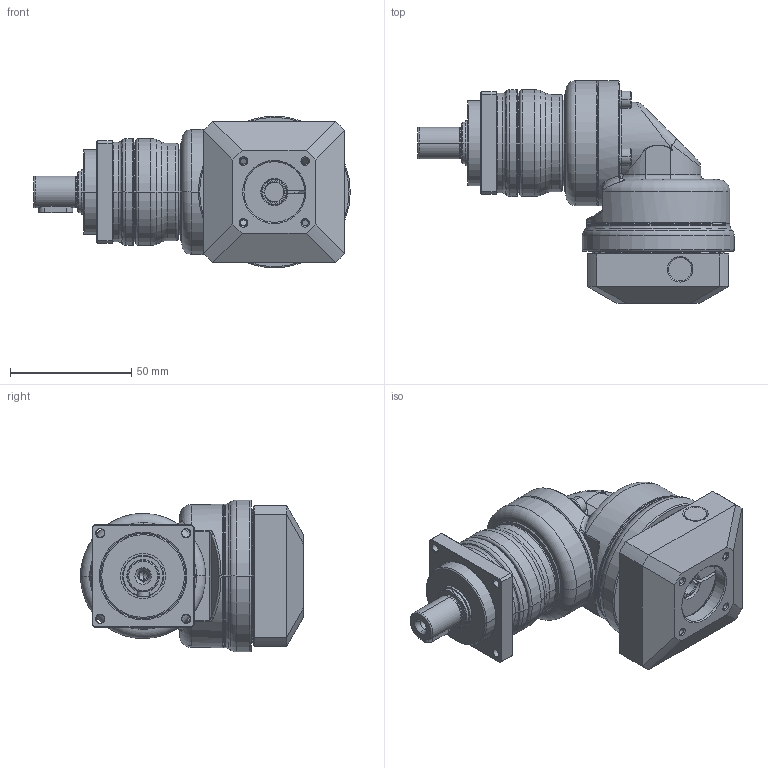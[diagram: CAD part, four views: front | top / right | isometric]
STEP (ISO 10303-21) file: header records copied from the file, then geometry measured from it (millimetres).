
FILE_DESCRIPTION((''),'2;1');
FILE_NAME('PA2R-042_1ST_8-P0411100101_ASM','2016-05-13T',('d01943'),(''),'PRO/ENGINEER BY PARAMETRIC TECHNOLOGY CORPORATION, 2008410','PRO/ENGINEER BY PARAMETRIC TECHNOLOGY CORPORATION, 2008410','');
FILE_SCHEMA(('CONFIG_CONTROL_DESIGN'));
Length unit declared in the file: millimetre
Products named in the file (12): P1327100001; P0250100001; P0350100601; P1349100001; P1017100001; P0713100001; P0503100005; P1350100001; P0411100101; P1702300001; 2111B104015; PA2R-042_1ST_8-P0411100101_ASM
Assembly tree (14 placements, depth 2):
  PA2R-042_1ST_8-P0411100101_ASM
    P1327100001
    P0250100001
    P0350100601
    P1349100001
    P1017100001
    P0713100001
    P0503100005
    P1350100001
    P0411100101
    P1702300001
    2111B104015  x4
Bounding box: 130.25 x 91.75 x 62.5 mm (x, y, z)
Volume: 188567.7 mm3; surface area: 72463 mm2
Topology: 14 solids, 14 shells, 735 faces, 1628 edges, 947 vertices
Faces by surface type: cylinder 218, cone 208, plane 170, torus 104, bspline 35
Entity records: 23763 total; most frequent: CARTESIAN_POINT 9416, DIRECTION 3163, ORIENTED_EDGE 2800, EDGE_CURVE 1400, AXIS2_PLACEMENT_3D 1337, VERTEX_POINT 827, EDGE_LOOP 719, CIRCLE 710
